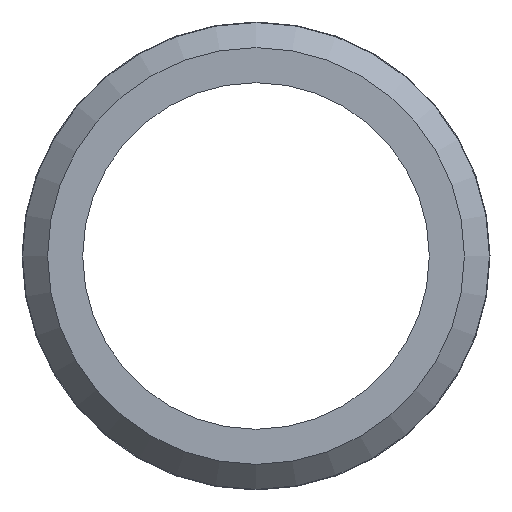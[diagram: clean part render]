
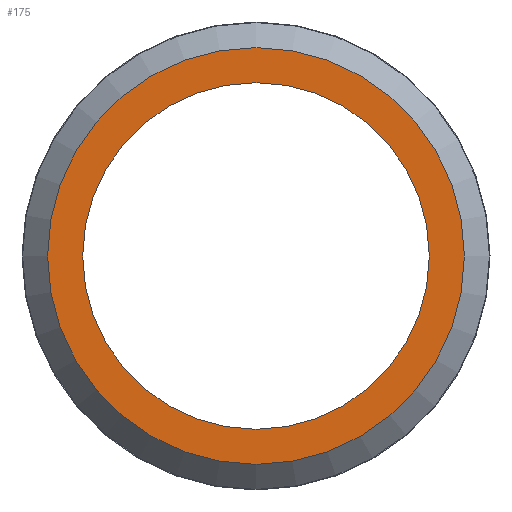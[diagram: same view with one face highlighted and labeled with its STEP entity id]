
A CAD part, front view. The second image highlights one B-rep face of the part: STEP entity #175.
In plain terms, the highlighted planar face has unit normal (0, -1, 0).
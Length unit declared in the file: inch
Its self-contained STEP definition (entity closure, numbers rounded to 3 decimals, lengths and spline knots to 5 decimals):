
#15=FACE_BOUND('',#40,.T.);
#19=PLANE('',#204);
#29=FACE_OUTER_BOUND('',#39,.T.);
#39=EDGE_LOOP('',(#134));
#40=EDGE_LOOP('',(#135,#136));
#63=CIRCLE('',#198,0.374);
#68=CIRCLE('',#205,0.311);
#69=CIRCLE('',#206,0.311);
#81=VERTEX_POINT('',#291);
#86=VERTEX_POINT('',#305);
#87=VERTEX_POINT('',#306);
#99=EDGE_CURVE('',#81,#81,#63,.T.);
#106=EDGE_CURVE('',#86,#87,#68,.T.);
#107=EDGE_CURVE('',#87,#86,#69,.T.);
#134=ORIENTED_EDGE('',*,*,#99,.F.);
#135=ORIENTED_EDGE('',*,*,#106,.F.);
#136=ORIENTED_EDGE('',*,*,#107,.F.);
#175=ADVANCED_FACE('',(#29,#15),#19,.T.);
#198=AXIS2_PLACEMENT_3D('',#292,#229,#230);
#204=AXIS2_PLACEMENT_3D('',#304,#243,#244);
#205=AXIS2_PLACEMENT_3D('',#307,#245,#246);
#206=AXIS2_PLACEMENT_3D('',#308,#247,#248);
#229=DIRECTION('center_axis',(0.,1.,0.));
#230=DIRECTION('ref_axis',(0.,0.,1.));
#243=DIRECTION('center_axis',(0.,-1.,0.));
#244=DIRECTION('ref_axis',(0.,0.,-1.));
#245=DIRECTION('center_axis',(0.,-1.,0.));
#246=DIRECTION('ref_axis',(1.,0.,0.));
#247=DIRECTION('center_axis',(0.,-1.,0.));
#248=DIRECTION('ref_axis',(1.,0.,0.));
#291=CARTESIAN_POINT('',(0.,0.,-0.374));
#292=CARTESIAN_POINT('Origin',(0.,0.,0.));
#304=CARTESIAN_POINT('Origin',(0.,0.,-0.311));
#305=CARTESIAN_POINT('',(0.,0.,-0.311));
#306=CARTESIAN_POINT('',(0.,0.,0.311));
#307=CARTESIAN_POINT('Origin',(0.,0.,0.));
#308=CARTESIAN_POINT('Origin',(0.,0.,0.));
